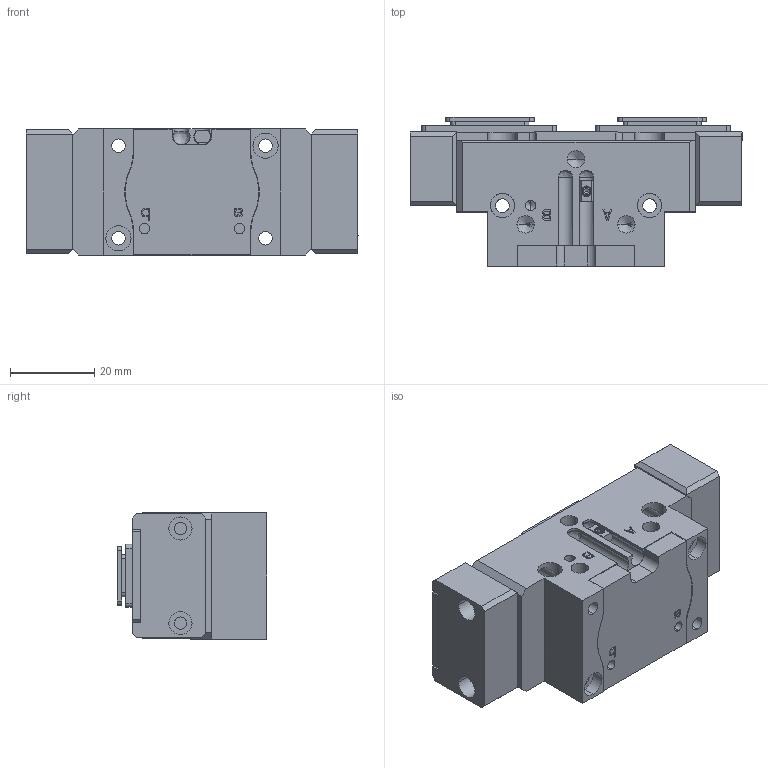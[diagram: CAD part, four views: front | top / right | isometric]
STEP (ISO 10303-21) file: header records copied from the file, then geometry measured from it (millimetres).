
FILE_DESCRIPTION (( 'STEP AP214' ), '1' );
FILE_NAME ('FPT50A-01-SD.STEP', '2021-09-18T00:51:38', ( 'DEEP' ), ( 'Microsoft' ), 'SwSTEP 2.0', 'SolidWorks 2016', '' );
FILE_SCHEMA (( 'AUTOMOTIVE_DESIGN' ));
Length unit declared in the file: millimetre
Products named in the file (22): FPT 50A-1-SD-004; FPT50A-01-002; FPT50A-01-004; FPT50A-01-001; FPT 50A-1-SD-002; FPT50A-01-003; FPT 50A-1-SD-003; FPT 50A-1-SD-001; FPT50A-01-SD; 蚾饜极2
Assembly tree (13 placements, depth 3):
  FPT 50A-1-SD-002
  FPT 50A-1-SD-003
  FPT 50A-1-SD-004
  FPT 50A-1-SD-001
  FPT 50A-1-SD-001
Bounding box: 79 x 35.5 x 30 mm (x, y, z)
Volume: 51521.1 mm3; surface area: 30962.2 mm2
Topology: 12 solids, 12 shells, 720 faces, 1922 edges, 1227 vertices
Faces by surface type: plane 411, cylinder 231, cone 72, bspline 6
Entity records: 20185 total; most frequent: CARTESIAN_POINT 3710, ORIENTED_EDGE 3140, DIRECTION 3138, EDGE_CURVE 1570, VECTOR 1120, LINE 1120, VERTEX_POINT 1025, AXIS2_PLACEMENT_3D 1009
